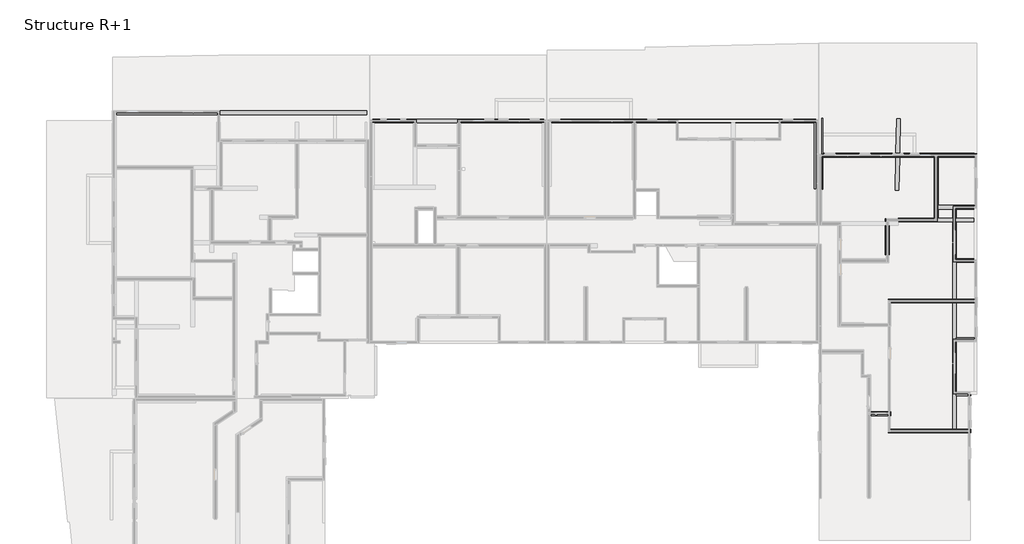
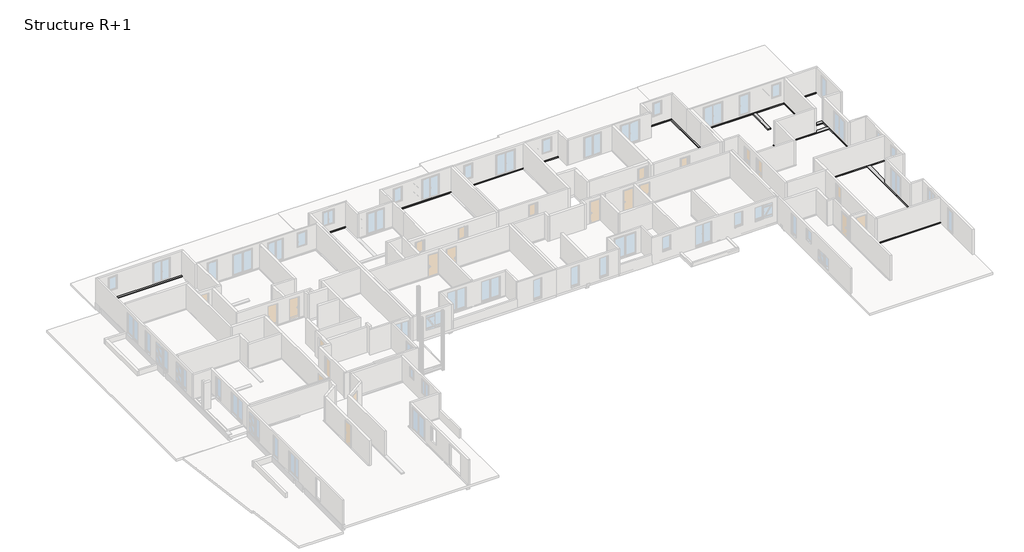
# One storey, part 11 of 11: 18 beams.
"""IFC4 building model written with IfcOpenShell, lengths in millimetres."""

import ifcopenshell
import ifcopenshell.guid

model = None  # the IFC model being written
_history = None  # IfcOwnerHistory: only IFC2X3 demands one
_inside = {}  # id of a spatial element -> (the spatial element, [elements in it])
_under = {}  # id of a project, library or spatial element -> (it, [spatial elements below it])
_declared = {}  # id of a project -> (the project, [libraries it declares])
_typed = {}  # id of a type object -> (the type object, [elements of that type])
_made_of = {}  # id of a material, layer set ... -> (it, [elements and type objects made of it])


def new_model(schema):
    """Start an empty IFC model of exactly this schema.

    Asked for "IFC4X3", IfcOpenShell would pick the latest addendum, in which some entities
    have other attributes; the version numbers below select the first issue.
    IFC2X3 requires an IfcOwnerHistory on every rooted entity: one is made here for all.
    """
    global model, _history
    if schema == "IFC4X3":
        model = ifcopenshell.file(schema_version=(4, 3, 0, 0))
    else:
        model = ifcopenshell.file(schema=schema)
    _inside.clear()
    _under.clear()
    _declared.clear()
    _typed.clear()
    _made_of.clear()
    _history = None
    if model.schema == "IFC2X3":
        org = make("IfcOrganization", Name="unknown")
        user = make(
            "IfcPersonAndOrganization",
            ThePerson=make("IfcPerson", FamilyName="unknown"),
            TheOrganization=org,
        )
        app = make(
            "IfcApplication",
            ApplicationDeveloper=org,
            Version="unknown",
            ApplicationFullName="unknown",
            ApplicationIdentifier="unknown",
        )
        _history = make(
            "IfcOwnerHistory",
            OwningUser=user,
            OwningApplication=app,
            ChangeAction="ADDED",
            CreationDate=0,
        )
    return model


def make(cls, **values):
    """One entity of the class cls with the attributes given. An attribute that is None is left unset."""
    return model.create_entity(
        cls, **{name: value for name, value in values.items() if value is not None}
    )


def rooted(cls, **values):
    """An entity with a GlobalId (a new one), such as an element, a storey or a relation."""
    return make(cls, GlobalId=ifcopenshell.guid.new(), OwnerHistory=_history, **values)


def si_unit(unit_type, name, prefix=None):
    """IfcSIUnit, for example si_unit("LENGTHUNIT", "METRE", prefix="MILLI")."""
    return make("IfcSIUnit", UnitType=unit_type, Prefix=prefix, Name=name)


def assignment(units):
    """IfcUnitAssignment: the units of a project."""
    return None if units is None else make("IfcUnitAssignment", Units=units)


def point(xyz):
    """IfcCartesianPoint."""
    return None if xyz is None else make("IfcCartesianPoint", Coordinates=xyz)


def direction(xyz):
    """IfcDirection."""
    return None if xyz is None else make("IfcDirection", DirectionRatios=xyz)


def frame(location, z_axis=None, x_axis=None):
    """IfcAxis2Placement3D, a coordinate frame: its origin and axes. An axis left out is left unset."""
    return make(
        "IfcAxis2Placement3D",
        Location=point(location),
        Axis=direction(z_axis),
        RefDirection=direction(x_axis),
    )


def origin():
    """The frame at (0, 0, 0) with its axes left unset."""
    return frame((0.0, 0.0, 0.0))


def place(relative_to, where):
    """IfcLocalPlacement: puts the frame where relative to a parent placement (None: the world)."""
    return make(
        "IfcLocalPlacement", PlacementRelTo=relative_to, RelativePlacement=where
    )


def context(
    kind, dimensions, precision=None, world=None, true_north=None, identifier=None
):
    """IfcGeometricRepresentationContext, for example the 3D "Model" context."""
    return make(
        "IfcGeometricRepresentationContext",
        ContextIdentifier=identifier,
        ContextType=kind,
        CoordinateSpaceDimension=dimensions,
        Precision=precision,
        WorldCoordinateSystem=world,
        TrueNorth=true_north,
    )


def project(units=None, contexts=None):
    """IfcProject with its units and contexts."""
    return rooted(
        "IfcProject",
        Name="project",
        RepresentationContexts=contexts,
        UnitsInContext=assignment(units),
    )


def spatial(cls, under=None, at=None, **own):
    """A site, building, storey or space (cls), placed at a placement, below another one or the project."""
    s = rooted(cls, ObjectPlacement=at, **own)
    if under is not None:
        _under.setdefault(under.id(), (under, []))[1].append(s)
    return s


def polyline(points):
    """IfcPolyline through the points."""
    return make("IfcPolyline", Points=[point(p) for p in points])


def outline(outer, holes=None, kind="AREA"):
    """IfcArbitraryClosedProfileDef: a profile drawn as a closed curve; with holes, ...WithVoids."""
    if holes is None:
        return make("IfcArbitraryClosedProfileDef", ProfileType=kind, OuterCurve=outer)
    return make(
        "IfcArbitraryProfileDefWithVoids",
        ProfileType=kind,
        OuterCurve=outer,
        InnerCurves=holes,
    )


def extrude(swept, where, along, depth):
    """IfcExtrudedAreaSolid: the profile swept, set in the frame where, extruded along a direction by depth."""
    return make(
        "IfcExtrudedAreaSolid",
        SweptArea=swept,
        Position=where,
        ExtrudedDirection=direction(along),
        Depth=depth,
    )


def faces_of(points, faces, orient=None, outer=None):
    """IfcFace entities. A face is a list of loops; a loop is a list of indices into points, from 0.

    orient and outer hold one flag for each loop. By default every Orientation is true, the
    first loop of a face is its IfcFaceOuterBound and the others are IfcFaceBound.
    """
    made = []
    for i, loops in enumerate(faces):
        bounds = []
        for j, loop in enumerate(loops):
            is_outer = j == 0 if outer is None else outer[i][j]
            bounds.append(
                make(
                    "IfcFaceOuterBound" if is_outer else "IfcFaceBound",
                    Bound=make("IfcPolyLoop", Polygon=[points[k] for k in loop]),
                    Orientation=True if orient is None else orient[i][j],
                )
            )
        made.append(make("IfcFace", Bounds=bounds))
    return made


def faceted_brep(points, faces, orient=None, outer=None, voids=None):
    """IfcFacetedBrep: a solid bounded by flat faces; with voids (closed shells), ...WithVoids."""
    shared = [point(p) for p in points]
    hull = make("IfcClosedShell", CfsFaces=faces_of(shared, faces, orient, outer))
    if voids is None:
        return make("IfcFacetedBrep", Outer=hull)
    return make(
        "IfcFacetedBrepWithVoids",
        Outer=hull,
        Voids=[
            make(cls, CfsFaces=faces_of(shared, fs, o, b)) for cls, fs, o, b in voids
        ],
    )


def shape(context_of_items, identifier, shape_type, items):
    """IfcShapeRepresentation: the items that make up one representation, for example the "Body"."""
    return make(
        "IfcShapeRepresentation",
        ContextOfItems=context_of_items,
        RepresentationIdentifier=identifier,
        RepresentationType=shape_type,
        Items=items,
    )


def made_of(thing, what):
    """Note that an element or type object is made of a material, layer set ...; save() writes the relation."""
    if what is not None:
        _made_of.setdefault(what.id(), (what, []))[1].append(thing)
    return thing


def element(
    cls,
    number,
    at=None,
    inside=None,
    cuts=None,
    type_object=None,
    material=None,
    context=None,
    identifier="Body",
    shape_type=None,
    held_by="IfcProductDefinitionShape",
    body=None,
    shapes=None,
    **own,
):
    """One element of the class cls, such as IfcWall. Its Tag is "e" and its number.

    at: its placement. inside: the storey or other place that contains it. cuts: it is an
    opening in that element (IfcRelVoidsElement). A single representation is given by context,
    identifier, shape_type and body (its items); several are given by shapes. held_by: the class
    of the entity that holds the representations. save() writes the other relations.
    """
    e = rooted(cls, Tag="e%d" % number, ObjectPlacement=at, **own)
    if body is not None:
        shapes = [shape(context, identifier, shape_type, body)]
    if shapes is not None:
        e.Representation = make(held_by, Representations=shapes)
    if inside is not None:
        _inside.setdefault(inside.id(), (inside, []))[1].append(e)
    if cuts is not None:
        rooted(
            "IfcRelVoidsElement", RelatingBuildingElement=cuts, RelatedOpeningElement=e
        )
    if type_object is not None:
        _typed.setdefault(type_object.id(), (type_object, []))[1].append(e)
    return made_of(e, material)


def aggregate(whole, parts):
    """IfcRelAggregates: a whole, such as a stair, and the parts it consists of."""
    return rooted("IfcRelAggregates", RelatingObject=whole, RelatedObjects=parts)


def save(model, path):
    """Write the relations noted so far, then the file.

    IfcRelAggregates (storeys below a building ...), IfcRelContainedInSpatialStructure (elements
    in a storey), IfcRelDefinesByType, IfcRelAssociatesMaterial and IfcRelDeclares: one each for
    every whole, place, type object, material and project.
    """
    for whole, parts in _under.values():
        aggregate(whole, parts)
    for where, things in _inside.values():
        rooted(
            "IfcRelContainedInSpatialStructure",
            RelatedElements=things,
            RelatingStructure=where,
        )
    for kind, things in _typed.values():
        rooted("IfcRelDefinesByType", RelatedObjects=things, RelatingType=kind)
    for what, things in _made_of.values():
        rooted("IfcRelAssociatesMaterial", RelatedObjects=things, RelatingMaterial=what)
    for by, libraries in _declared.values():
        rooted("IfcRelDeclares", RelatingContext=by, RelatedDefinitions=libraries)
    model.write(path)


model = new_model("IFC4")

# Units and contexts
model_context = context("Model", 3, world=origin())
ifc_project = project(units=[si_unit("LENGTHUNIT", "METRE", prefix="MILLI")], contexts=[model_context])

# Site, building, storey
site = spatial("IfcSite", under=ifc_project)
building = spatial("IfcBuilding", under=site)
storey = spatial("IfcBuildingStorey", under=building, Name="Structure R+1", Elevation=3320.0)

# Beams
placement = place(None, origin())
element("IfcBeam", 1, ObjectType="Poutre rectangulaire - Béton : 300 x 600 mm", at=placement, inside=storey, context=model_context, shape_type="Brep", body=[
    faceted_brep([(37598.3832806, 32157.4959984, 3320.0), (37598.3832806, 32157.4959984, 2720.0), (24101.9389593, 32157.4959984, 2720.0), (24101.9389593, 32157.4959984, 3320.0), (24101.9389593, 32107.4974719, 2720.0), (37598.3832806, 32107.4972516, 2720.0), (37808.398272, 32107.4972516, 2720.0), (37808.398272, 31857.4959984, 2720.0), (37798.3982717, 31857.4959984, 2720.0), (37498.3982717, 31857.4959984, 2720.0), (31052.3830099, 31857.4959984, 2720.0), (30752.3830099, 31857.4959984, 2720.0), (27575.1224614, 31857.4959984, 2720.0), (27275.1224614, 31857.4959984, 2720.0), (24189.3830554, 31857.4959984, 2720.0), (23939.4686156, 31857.4959984, 2720.0), (23939.4686156, 31860.3155595, 2720.0), (23939.4686156, 32107.4974719, 2720.0), (37807.390788, 31857.4959984, 3030.0), (37798.3982717, 31857.4959984, 3030.0), (37498.3982717, 31857.4959984, 3030.0), (31052.3830099, 31857.4959984, 3030.0), (30752.3830099, 31857.4959984, 3030.0), (27575.1224614, 31857.4959984, 3030.0), (27275.1224614, 31857.4959984, 3030.0), (24189.3830554, 31857.4959984, 3030.0), (23939.4686156, 31857.4959984, 3030.0), (37808.398272, 31857.4959984, 3230.0), (37807.390788, 31857.4959984, 3230.0), (37598.3832806, 32107.4972516, 3320.0), (24101.9389593, 32107.4974719, 3320.0), (27524.3814808, 32107.4974719, 3320.0), (27524.3814808, 31947.4974719, 3320.0), (24031.9389593, 31947.4974719, 3320.0), (24031.9389593, 31857.4959984, 3320.0), (24189.3830554, 31857.4959984, 3320.0), (27275.1224614, 31857.4959984, 3320.0), (27575.1224614, 31857.4959984, 3320.0), (30752.3830099, 31857.4959984, 3320.0), (31052.3830099, 31857.4959984, 3320.0), (37498.3982717, 31857.4959984, 3320.0), (37648.3832806, 31857.4959984, 3320.0), (37648.3832806, 31947.4972516, 3320.0), (30984.3814808, 31947.4972516, 3320.0), (30984.3814808, 32107.4972516, 3320.0), (37598.3832806, 32107.4960317, 3030.0), (37807.390788, 32107.4972516, 3030.0), (37807.390788, 32107.4972516, 3230.0), (37808.398272, 32107.4972516, 3230.0), (24101.9389593, 32107.4974719, 3030.0), (23939.4686156, 32107.4974719, 3030.0), (27524.3814808, 32107.4974719, 3230.0), (30984.3814808, 32107.4974719, 3230.0), (27524.3814808, 31947.4974719, 3230.0), (30984.3814808, 31947.4972516, 3230.0), (23939.4686156, 31860.3155595, 3030.0), (37648.3832806, 31947.4972516, 3230.0), (37648.3832806, 31857.4959984, 3230.0), (37498.3982717, 31857.4959984, 3230.0), (31052.3830099, 31857.4959984, 3230.0), (30752.3830099, 31857.4959984, 3230.0), (27575.1224614, 31857.4959984, 3230.0), (27275.1224614, 31857.4959984, 3230.0), (24189.3830554, 31857.4959984, 3230.0), (24031.9389593, 31857.4959984, 3230.0), (24031.9389593, 31947.4974719, 3230.0)], [[[0, 1, 2, 3]], [[4, 2, 1, 5, 6, 7, 8, 9, 10, 11, 12, 13, 14, 15, 16, 17]], [[18, 19, 20, 21, 22, 23, 24, 25, 26, 15, 14, 13, 12, 11, 10, 9, 8, 7, 27, 28]], [[29, 0, 3, 30, 31, 32, 33, 34, 35, 36, 37, 38, 39, 40, 41, 42, 43, 44]], [[1, 0, 29, 45, 5]], [[6, 5, 45, 46, 47, 48]], [[3, 2, 4, 49, 30]], [[4, 17, 50, 49]], [[51, 31, 30, 49, 45, 29, 44, 52]], [[31, 51, 53, 32]], [[28, 27, 48, 47]], [[52, 44, 43, 54]], [[26, 25, 24, 23, 22, 21, 20, 19, 18, 46, 45, 49, 50, 55]], [[53, 51, 52, 54, 56, 57, 58, 59, 60, 61, 62, 63, 64, 65]], [[32, 53, 65, 33]], [[54, 43, 42, 56]], [[17, 16, 15, 26, 55, 50]], [[42, 41, 57, 56]], [[34, 33, 65, 64]], [[7, 6, 48, 27]], [[46, 18, 28, 47]], [[57, 41, 40, 39, 38, 37, 36, 35, 34, 64, 63, 62, 61, 60, 59, 58]]]),
])
element("IfcBeam", 2, ObjectType="Poutre rectangulaire - Béton : 300 x 600 mm", at=placement, inside=storey, context=model_context, shape_type="SweptSolid", body=[
    extrude(outline(polyline([(3806.907833, 32500.6398567), (3806.907833, 32800.6398567), (23609.3795366, 32800.6398567), (23609.3795366, 32500.6398567), (3806.907833, 32500.6398567)])), frame((0.0, 0.0, 2720.0), z_axis=(0.0, 0.0, 1.0), x_axis=(1.0, 0.0, 0.0)), (0.0, 0.0, 1.0), 600.0),
])
element("IfcBeam", 3, ObjectType="Poutre rectangulaire - Béton : 300 x 600 mm", at=placement, inside=storey, context=model_context, shape_type="Brep", body=[
    faceted_brep([(38178.7313075, 31857.4959984, 3320.0), (38178.7313075, 31857.4959984, 3230.0), (44607.2462422, 31857.4959984, 3230.0), (44657.3927707, 31857.4959984, 3230.0), (44657.3927707, 31857.4959984, 3320.0), (44607.2462422, 31857.4959984, 3320.0), (38178.7313075, 31927.4960094, 3230.0), (38178.7313075, 31927.4960094, 3320.0), (44657.3927707, 31927.4960094, 3230.0), (44657.3927707, 31927.4960094, 3320.0)], [[[0, 1, 2, 3, 4, 5]], [[6, 1, 0, 7]], [[1, 6, 8, 3, 2]], [[7, 0, 5, 4, 9]], [[6, 7, 9, 8]], [[4, 3, 8, 9]]]),
    faceted_brep([(38078.7313075, 32087.4960094, 2720.0), (38078.7313075, 32157.4959984, 2720.0), (59082.2183923, 32157.4959984, 2720.0), (59082.2183923, 32111.2837659, 2720.0), (59282.9632272, 32111.2837659, 2720.0), (59282.9632272, 31857.4959984, 2720.0), (58982.9632272, 31857.4959984, 2720.0), (52717.3928747, 31857.4959984, 2720.0), (52417.3928747, 31857.4959984, 2720.0), (44907.2462422, 31857.4959984, 2720.0), (44607.2462422, 31857.4959984, 2720.0), (38178.7313075, 31857.4959984, 2720.0), (38178.7313075, 32087.4960094, 2720.0), (38078.7313075, 32157.4959984, 3320.0), (59082.2183923, 32157.4959984, 3320.0), (38078.7313075, 32087.4960094, 3320.0), (59282.9632272, 32087.496363, 3320.0), (59282.9632272, 32111.2837659, 3320.0), (59082.2183923, 32111.2837659, 3320.0), (38178.7313075, 32087.4960094, 3030.0), (59282.9632272, 32087.4960094, 3030.0), (38178.7313075, 31857.4959984, 3030.0), (44607.2462422, 31857.4959984, 3030.0), (44907.2462422, 31857.4959984, 3030.0), (52417.3928747, 31857.4959984, 3030.0), (52717.3928747, 31857.4959984, 3030.0), (58982.9632272, 31857.4959984, 3030.0), (59282.9632272, 31857.4959984, 3030.0)], [[[0, 1, 2, 3, 4, 5, 6, 7, 8, 9, 10, 11, 12]], [[1, 13, 14, 2]], [[13, 15, 16, 17, 18, 14]], [[1, 0, 15, 13]], [[0, 12, 19, 20, 16, 15]], [[21, 22, 23, 24, 25, 26, 27, 20, 19]], [[2, 14, 18, 3]], [[18, 17, 4, 3]], [[27, 26, 25, 24, 23, 22, 21, 11, 10, 9, 8, 7, 6, 5]], [[12, 11, 21, 19]], [[27, 5, 4, 17, 16, 20]]]),
    faceted_brep([(56314.3903552, 31857.4959984, 3230.0), (56314.3903552, 31857.4959984, 3320.0), (56314.3903552, 31927.496363, 3320.0), (56314.3903552, 31927.496363, 3230.0), (59132.9661689, 31927.496363, 3230.0), (59132.9661689, 31857.4959984, 3230.0), (58982.9632272, 31857.4959984, 3230.0), (59132.9661689, 31857.4959984, 3320.0), (58982.9632272, 31857.4959984, 3320.0), (59132.9661689, 31927.496363, 3320.0)], [[[0, 1, 2, 3]], [[0, 3, 4, 5, 6]], [[1, 0, 6, 5, 7, 8]], [[3, 2, 9, 4]], [[2, 1, 8, 7, 9]], [[5, 4, 9, 7]]]),
    faceted_brep([(56154.3903552, 31887.4960094, 3320.0), (56154.3903552, 31857.4959984, 3320.0), (56154.3903552, 31857.4959984, 3230.0), (56154.3903552, 31887.4960094, 3230.0), (48220.3941376, 31887.4960094, 3320.0), (48220.3941376, 31887.4960094, 3230.0), (48220.3941376, 31857.4959984, 3230.0), (48220.3941376, 31857.4959984, 3320.0), (52717.3928747, 31857.4959984, 3230.0), (52417.3928747, 31857.4959984, 3230.0), (52417.3928747, 31857.4959984, 3320.0), (52717.3928747, 31857.4959984, 3320.0)], [[[0, 1, 2, 3]], [[4, 0, 3, 5]], [[5, 6, 7, 4]], [[3, 2, 8, 9, 6, 5]], [[1, 0, 4, 7, 10, 11]], [[2, 1, 11, 10, 7, 6, 9, 8]]]),
    faceted_brep([(48060.3941376, 31857.4959984, 3230.0), (48060.3941376, 31927.4960094, 3230.0), (48060.3941376, 31927.4960094, 3320.0), (48060.3941376, 31857.4959984, 3320.0), (44857.3927707, 31857.4959984, 3230.0), (44857.3927707, 31857.4959984, 3320.0), (44857.3927707, 31927.4960094, 3320.0), (44857.3927707, 31927.4960094, 3230.0), (44907.2462422, 31857.4959984, 3230.0), (44907.2462422, 31857.4959984, 3320.0)], [[[0, 1, 2, 3]], [[4, 5, 6, 7]], [[1, 0, 8, 4, 7]], [[3, 2, 6, 5, 9]], [[2, 1, 7, 6]], [[0, 3, 9, 5, 4, 8]]]),
])
element("IfcBeam", 4, ObjectType="Poutre rectangulaire - Béton : 300 x 600 mm", at=placement, inside=storey, context=model_context, shape_type="Brep", body=[
    faceted_brep([(58982.9632272, 26646.6200522, 3320.0), (58982.9632272, 26646.6200522, 3230.0), (59132.9632272, 26646.6200522, 3230.0), (59132.9632272, 26646.6200522, 3320.0), (58982.9632272, 31857.4959984, 3320.0), (58982.9632272, 31857.4959984, 3230.0), (59132.9661689, 31857.4959984, 3320.0), (59132.9661689, 31857.4959984, 3230.0), (59132.9647745, 29387.496363, 3230.0), (59132.9634564, 27052.4942338, 3230.0)], [[[0, 1, 2, 3]], [[1, 0, 4, 5]], [[3, 6, 4, 0]], [[5, 4, 6, 7]], [[1, 5, 7, 8, 9, 2]], [[3, 2, 9, 8, 7, 6]]]),
    faceted_brep([(59282.9632272, 26646.6200522, 2720.0), (58982.9632272, 26646.6200522, 2720.0), (58982.9632272, 31857.4959984, 2720.0), (59282.9632272, 31857.4959984, 2720.0), (59282.9632272, 26646.6200522, 3030.0), (59282.9632272, 31857.4959984, 3030.0), (58982.9632272, 26646.6200522, 3030.0), (58982.9632272, 31857.4959984, 3030.0)], [[[0, 1, 2, 3]], [[4, 0, 3, 5]], [[6, 4, 5, 7]], [[1, 6, 7, 2]], [[1, 0, 4, 6]], [[3, 2, 7, 5]]]),
])
element("IfcBeam", 5, ObjectType="Poutre rectangulaire - Béton : 300 x 600 mm", at=placement, inside=storey, context=model_context, shape_type="Brep", body=[
    faceted_brep([(59663.0074525, 26629.847462, 3230.0), (59663.0074525, 26629.847462, 3320.0), (59553.0074525, 26629.847462, 3320.0), (59553.0074525, 26629.847462, 3230.0), (59663.0074525, 29147.9024223, 3230.0), (59663.0074525, 29221.5866004, 3230.0), (59663.0074525, 29221.5866004, 3320.0), (59663.0074525, 29147.9024223, 3320.0), (59553.0074525, 29221.5866004, 3320.0), (59553.0074525, 29221.5866004, 3230.0)], [[[0, 1, 2, 3]], [[1, 0, 4, 5, 6, 7]], [[8, 2, 1, 7, 6]], [[3, 9, 5, 4, 0]], [[6, 5, 9, 8]], [[3, 2, 8, 9]]]),
    faceted_brep([(59663.0074525, 32215.247462, 3320.0), (59663.0074525, 32215.247462, 2720.0), (59562.998512, 32215.247462, 2720.0), (59562.998512, 32215.247462, 3320.0), (59663.0074525, 26629.847462, 2720.0), (59363.0074525, 26629.847462, 2720.0), (59363.0074525, 29381.5866004, 2720.0), (59562.998512, 29381.5866004, 2720.0), (59663.0074525, 29447.9024223, 2720.0), (59663.0074525, 29147.9024223, 2720.0), (59363.0074525, 26629.847462, 3030.0), (59663.0074525, 26629.847462, 3030.0), (59663.0074525, 29147.9024223, 3030.0), (59663.0074525, 29381.5866004, 3030.0), (59562.998512, 29381.5866004, 3030.0), (59363.0074525, 29381.5866004, 3030.0), (59663.0074525, 29381.5866004, 3320.0), (59562.998512, 29381.5866004, 3320.0), (59663.0074525, 29447.9024223, 3320.0)], [[[0, 1, 2, 3]], [[4, 5, 6, 7, 2, 1, 8, 9]], [[10, 11, 12, 13, 14, 15]], [[13, 16, 17, 14]], [[5, 4, 11, 10]], [[5, 10, 15, 6]], [[16, 18, 0, 3, 17]], [[7, 14, 17, 3, 2]], [[14, 7, 6, 15]], [[1, 0, 18, 16, 13, 12, 11, 4, 9, 8]]]),
])
element("IfcBeam", 6, ObjectType="Poutre rectangulaire - Béton : 300 x 600 mm", at=placement, inside=storey, context=model_context, shape_type="Brep", body=[
    faceted_brep([(59663.0074525, 29147.9024223, 3320.0), (59663.0074525, 29147.9024223, 3230.0), (65418.933362, 29147.9024223, 3230.0), (65719.0020165, 29147.9024223, 3230.0), (68457.2963514, 29147.9024223, 3230.0), (68507.2963514, 29147.9024223, 3230.0), (68507.2963514, 29147.9024223, 3320.0), (68457.2963514, 29147.9024223, 3320.0), (65719.0020165, 29147.9024223, 3320.0), (65418.933362, 29147.9024223, 3320.0), (59663.0074525, 29221.5866004, 3230.0), (59663.0074525, 29221.5866004, 3320.0), (68507.2963514, 29221.5866004, 3320.0), (68507.2963514, 29221.5866004, 3230.0)], [[[0, 1, 2, 3, 4, 5, 6, 7, 8, 9]], [[10, 11, 12, 13]], [[1, 0, 11, 10]], [[6, 5, 13, 12]], [[1, 10, 13, 5, 4, 3, 2]], [[11, 0, 9, 8, 7, 6, 12]]]),
    faceted_brep([(71818.498036, 29147.9024223, 2720.0), (71818.498036, 29301.5866004, 2720.0), (71820.8909444, 29301.5866004, 2720.0), (71820.8909444, 29147.9024223, 2720.0), (71608.498036, 29447.9024223, 3320.0), (71608.498036, 29447.9024223, 2720.0), (65725.4205389, 29447.9024223, 2720.0), (65425.3518844, 29447.9024223, 2720.0), (59663.0074525, 29447.9024223, 2720.0), (59663.0074525, 29447.9024223, 3320.0), (65425.3518844, 29447.9024223, 3320.0), (65725.4205389, 29447.9024223, 3320.0), (71608.498036, 29401.5866004, 3320.0), (59663.0074525, 29381.5866004, 3320.0), (71798.498036, 29381.5866004, 3320.0), (71798.498036, 29147.9024223, 3320.0), (71820.8909444, 29147.9024223, 3320.0), (71820.8909444, 29301.5866004, 3320.0), (71818.498036, 29301.5866004, 3320.0), (71818.498036, 29401.5866004, 3320.0), (71608.498036, 29401.5866004, 2720.0), (71818.498036, 29401.5866004, 2720.0), (71794.898036, 29381.5866004, 3030.0), (71794.898036, 29381.5866004, 3230.0), (71798.498036, 29381.5866004, 3230.0), (59663.0074525, 29381.5866004, 3030.0), (71794.898036, 29301.5866004, 3230.0), (71798.498036, 29301.5866004, 3230.0), (71794.898036, 29301.5866004, 3030.0), (59663.0074525, 29147.9024223, 3030.0), (65418.933362, 29147.9024223, 3030.0), (65719.0020165, 29147.9024223, 3030.0), (68457.2963514, 29147.9024223, 3030.0), (68757.2963514, 29147.9024223, 3030.0), (71618.498036, 29147.9024223, 3030.0), (71618.498036, 29301.5866004, 3030.0), (71798.498036, 29301.5866004, 3030.0), (71618.498036, 29301.5866004, 2720.0), (71818.498036, 29301.5866004, 3030.0), (59663.0074525, 29147.9024223, 2720.0), (71618.498036, 29147.9024223, 2720.0), (71818.498036, 29147.9024223, 3030.0), (71798.498036, 29147.9024223, 3030.0), (71818.498036, 29301.5866004, 3030.0), (68757.2963514, 29147.9024223, 2720.0), (68457.2963514, 29147.9024223, 2720.0), (65719.0020165, 29147.9024223, 2720.0), (65418.933362, 29147.9024223, 2720.0)], [[[0, 1, 2, 3]], [[4, 5, 6, 7, 8, 9, 10, 11]], [[12, 4, 11, 10, 9, 13, 14, 15, 16, 17, 18, 19]], [[12, 20, 5, 4]], [[20, 12, 19, 21]], [[22, 23, 24, 14, 13, 25]], [[26, 27, 24, 23]], [[28, 22, 25, 29, 30, 31, 32, 33, 34, 35]], [[36, 27, 26, 28, 35, 37, 1, 38]], [[23, 22, 28, 26]], [[8, 39, 29, 25, 13, 9]], [[37, 35, 34, 40]], [[41, 38, 1, 0]], [[38, 41, 42, 36]], [[27, 36, 42, 15, 14, 24]], [[15, 42, 41, 0, 3, 16]], [[16, 3, 2, 17]], [[2, 1, 43, 18, 17]], [[1, 21, 19, 18, 43]], [[5, 20, 21, 1, 37, 40, 44, 45, 46, 47, 39, 8, 7, 6]], [[29, 39, 47, 46, 45, 44, 40, 34, 33, 32, 31, 30]]]),
    faceted_brep([(71638.498036, 29147.9024223, 3230.0), (71638.498036, 29221.5866004, 3230.0), (71638.498036, 29221.5866004, 3320.0), (71638.498036, 29147.9024223, 3320.0), (68757.2963514, 29147.9024223, 3230.0), (68707.2963514, 29147.9024223, 3230.0), (68707.2963514, 29221.5866004, 3230.0), (68707.2963514, 29221.5866004, 3320.0), (68707.2963514, 29147.9024223, 3320.0), (68757.2963514, 29147.9024223, 3320.0)], [[[0, 1, 2, 3]], [[1, 0, 4, 5, 6]], [[3, 2, 7, 8, 9]], [[5, 8, 7, 6]], [[0, 3, 9, 8, 5, 4]], [[2, 1, 6, 7]]]),
])
element("IfcBeam", 7, ObjectType="Poutre rectangulaire - Béton : 300 x 600 mm", at=placement, inside=storey, context=model_context, shape_type="Brep", body=[
    faceted_brep([(65484.2414348, 32200.3840719, 3320.0), (65784.172796, 32193.967018, 3320.0), (65784.172796, 32193.967018, 2720.0), (65484.2414348, 32200.3840719, 2720.0), (65425.3518844, 29447.9024223, 3320.0), (65425.3518844, 29447.9024223, 2720.0), (65725.4205389, 29447.9024223, 2720.0), (65725.4205389, 29447.9024223, 3320.0)], [[[0, 1, 2, 3]], [[4, 5, 6, 7]], [[0, 3, 5, 4]], [[3, 2, 6, 5]], [[2, 1, 7, 6]], [[1, 0, 4, 7]]]),
    faceted_brep([(65362.7653538, 26522.6249188, 3230.0), (65362.7653538, 26522.6249188, 3320.0), (65418.933362, 29147.9024223, 3320.0), (65418.933362, 29147.9024223, 3230.0), (65662.8340084, 26522.6249188, 3320.0), (65719.0020165, 29147.9024223, 3320.0), (65662.8340084, 26522.6249188, 3230.0), (65719.0020165, 29147.9024223, 3230.0)], [[[0, 1, 2, 3]], [[1, 4, 5, 2]], [[4, 1, 0, 6]], [[6, 0, 3, 7]], [[3, 2, 5, 7]], [[4, 6, 7, 5]]]),
    faceted_brep([(65364.9048613, 26622.6249188, 2720.0), (65418.933362, 29147.9024223, 2720.0), (65719.0020165, 29147.9024223, 2720.0), (65662.8340084, 26522.6249188, 2720.0), (65613.8694348, 26522.6249188, 2720.0), (65613.8694348, 26622.6249188, 2720.0), (65662.8340084, 26522.6249188, 3030.0), (65719.0020165, 29147.9024223, 3030.0), (65364.9048613, 26622.6249188, 3030.0), (65613.8694348, 26622.6249188, 3030.0), (65413.8694348, 26622.6249188, 3030.0), (65418.933362, 29147.9024223, 3030.0), (65613.8694348, 26522.6249188, 3030.0)], [[[0, 1, 2, 3, 4, 5]], [[6, 3, 2, 7]], [[8, 0, 5, 9, 10]], [[11, 8, 10, 9, 12, 6, 7]], [[3, 6, 12, 4]], [[0, 8, 11, 1]], [[1, 11, 7, 2]], [[9, 5, 4, 12]]]),
])
element("IfcBeam", 8, ObjectType="Poutre rectangulaire - Béton : 300 x 600 mm", at=placement, inside=storey, context=model_context, shape_type="Brep", body=[
    faceted_brep([(65621.5184286, 24334.1958834, 2720.0), (65621.5184286, 24034.1958834, 2720.0), (65621.5184286, 24034.1958834, 3030.0), (65621.5184286, 24334.1958834, 3030.0), (68457.2963514, 24334.1958834, 2720.0), (68757.2963514, 24334.1958834, 2720.0), (69900.3173481, 24334.1958834, 2720.0), (70200.3173481, 24334.1958834, 2720.0), (71618.498036, 24334.1958834, 2720.0), (71618.498036, 24034.1958834, 2720.0), (70200.3173481, 24034.1958834, 2720.0), (69900.3173481, 24034.1958834, 2720.0), (68457.2963514, 24334.1958834, 3030.0), (68757.2963514, 24334.1958834, 3030.0), (69900.3173481, 24334.1958834, 3030.0), (70200.3173481, 24334.1958834, 3030.0), (71618.498036, 24334.1958834, 3030.0), (71618.498036, 24034.1958834, 3030.0), (69900.3173481, 24034.1958834, 3030.0), (70200.3173481, 24034.1958834, 3030.0)], [[[0, 1, 2, 3]], [[1, 0, 4, 5, 6, 7, 8, 9, 10, 11]], [[8, 7, 6, 5, 4, 0, 3, 12, 13, 14, 15, 16]], [[17, 16, 15, 14, 13, 12, 3, 2, 18, 19]], [[17, 9, 8, 16]], [[1, 11, 10, 9, 17, 19, 18, 2]]]),
    faceted_brep([(65621.5184286, 24034.1958834, 3320.0), (65621.5184286, 24034.1958834, 3230.0), (69900.3173481, 24034.1958834, 3230.0), (69965.3197793, 24034.1958834, 3230.0), (69965.3197793, 24034.1958834, 3320.0), (69900.3173481, 24034.1958834, 3320.0), (65621.5184286, 24084.1958834, 3320.0), (65621.5184286, 24084.1958834, 3230.0), (69965.3197793, 24334.1958834, 3230.0), (69965.3197793, 24334.1958834, 3320.0), (68507.2963514, 24084.1958834, 3230.0), (68707.2963514, 24084.1958834, 3230.0), (68707.2963514, 24334.1958834, 3230.0), (68757.2963514, 24334.1958834, 3230.0), (69900.3173481, 24334.1958834, 3230.0), (68707.2963514, 24334.1958834, 3320.0), (68757.2963514, 24334.1958834, 3320.0), (69900.3173481, 24334.1958834, 3320.0), (68707.2963514, 24084.1958834, 3320.0)], [[[0, 1, 2, 3, 4, 5]], [[1, 0, 6, 7]], [[4, 3, 8, 9]], [[3, 2, 1, 7, 10, 11, 12, 13, 14, 8]], [[9, 8, 14, 13, 12, 15, 16, 17]], [[11, 18, 15, 12]], [[18, 11, 10, 7, 6]], [[0, 5, 4, 9, 17, 16, 15, 18, 6]]]),
    faceted_brep([(71598.4984496, 24034.1958834, 3320.0), (71598.4984496, 24334.1958834, 3320.0), (70200.3173481, 24334.1958834, 3320.0), (70125.3197793, 24334.1958834, 3320.0), (70125.3197793, 24034.1958834, 3320.0), (70200.3173481, 24034.1958834, 3320.0), (71598.4984496, 24034.1958834, 3230.0), (71598.4984496, 24334.1958834, 3230.0), (70200.3173481, 24034.1958834, 3230.0), (70125.3197793, 24034.1958834, 3230.0), (70125.3197793, 24334.1958834, 3230.0), (70200.3173481, 24334.1958834, 3230.0)], [[[0, 1, 2, 3, 4, 5]], [[1, 0, 6, 7]], [[7, 6, 8, 9, 10, 11]], [[10, 3, 2, 1, 7, 11]], [[9, 4, 3, 10]], [[0, 5, 4, 9, 8, 6]]]),
    faceted_brep([(68507.2963514, 24334.1958834, 3320.0), (68457.2963514, 24334.1958834, 3320.0), (65621.5184286, 24334.1958834, 3320.0), (65621.5184286, 24284.1958834, 3320.0), (68507.2963514, 24284.1958834, 3320.0), (68507.2963514, 24334.1958834, 3230.0), (68507.2963514, 24284.1958834, 3230.0), (65621.5184286, 24284.1958834, 3230.0), (65621.5184286, 24334.1958834, 3230.0), (68457.2963514, 24334.1958834, 3230.0)], [[[0, 1, 2, 3, 4]], [[5, 0, 4, 6]], [[3, 7, 6, 4]], [[8, 2, 1, 0, 5, 9]], [[2, 8, 7, 3]], [[8, 9, 5, 6, 7]]]),
])
element("IfcBeam", 9, ObjectType="Poutre rectangulaire - Béton : 300 x 600 mm", at=placement, inside=storey, context=model_context, shape_type="Brep", body=[
    faceted_brep([(68457.2963514, 29147.9024223, 2720.0), (68757.2963514, 29147.9024223, 2720.0), (68757.2963514, 25329.1040958, 2720.0), (68757.2963514, 25029.1040958, 2720.0), (68757.2963514, 24334.1958834, 2720.0), (68457.2963514, 24334.1958834, 2720.0), (68757.2963514, 29147.9024223, 3030.0), (68457.2963514, 29147.9024223, 3030.0), (68457.2963514, 24334.1958834, 3030.0), (68757.2963514, 24334.1958834, 3030.0), (68757.2963514, 25029.1040958, 3030.0), (68757.2963514, 25329.1040958, 3030.0)], [[[0, 1, 2, 3, 4, 5]], [[6, 7, 8, 9, 10, 11]], [[7, 0, 5, 8]], [[1, 6, 11, 10, 9, 4, 3, 2]], [[5, 4, 9, 8]], [[1, 0, 7, 6]]]),
    faceted_brep([(68757.2963514, 29147.9024223, 3230.0), (68757.2963514, 29147.9024223, 3320.0), (68757.2963514, 25329.1040958, 3320.0), (68757.2963514, 25029.1040958, 3320.0), (68757.2963514, 24334.1958834, 3320.0), (68757.2963514, 24334.1958834, 3230.0), (68757.2963514, 25029.1040958, 3230.0), (68757.2963514, 25329.1040958, 3230.0), (68707.2963514, 29147.9024223, 3320.0), (68707.2963514, 24334.1958834, 3320.0), (68707.2963514, 29147.9024223, 3230.0), (68707.2963514, 24334.1958834, 3230.0)], [[[0, 1, 2, 3, 4, 5, 6, 7]], [[1, 8, 9, 4, 3, 2]], [[10, 0, 7, 6, 5, 11]], [[8, 10, 11, 9]], [[5, 4, 9, 11]], [[1, 0, 10, 8]]]),
    faceted_brep([(68457.2963514, 29147.9024223, 3230.0), (68457.2963514, 29147.9024223, 3320.0), (68507.2963514, 29147.9024223, 3320.0), (68507.2963514, 29147.9024223, 3230.0), (68507.2963514, 24334.1958834, 3320.0), (68507.2963514, 24334.1958834, 3230.0), (68457.2963514, 24334.1958834, 3230.0), (68457.2963514, 24334.1958834, 3320.0)], [[[0, 1, 2, 3]], [[3, 2, 4, 5]], [[1, 0, 6, 7]], [[2, 1, 7, 4]], [[0, 3, 5, 6]], [[5, 4, 7, 6]]]),
])
element("IfcBeam", 10, ObjectType="Poutre rectangulaire - Béton : 300 x 600 mm", at=placement, inside=storey, context=model_context, shape_type="SweptSolid", body=[
    extrude(outline(polyline([(64898.1802895, 21444.2305554), (64598.1802895, 21444.2305554), (64598.1802895, 23762.4942338), (64898.1802895, 23762.4942338), (64898.1802895, 21444.2305554)])), frame((0.0, 0.0, 2720.0), z_axis=(0.0, 0.0, 1.0), x_axis=(1.0, 0.0, 0.0)), (0.0, 0.0, 1.0), 310.0),
    extrude(outline(polyline([(64898.1802895, 23762.4942338), (64898.1802895, 21444.2305554), (64848.1802895, 21444.2305554), (64848.1802895, 23762.4942338), (64898.1802895, 23762.4942338)])), frame((0.0, 0.0, 3230.0), z_axis=(0.0, 0.0, 1.0), x_axis=(1.0, 0.0, 0.0)), (0.0, 0.0, 1.0), 90.0),
    extrude(outline(polyline([(64598.1802895, 24284.1958834), (64898.1802895, 24284.1958834), (64898.1802895, 24062.4942338), (64598.1802895, 24062.4942338), (64598.1802895, 24284.1958834)])), frame((0.0, 0.0, 2720.0), z_axis=(0.0, 0.0, 1.0), x_axis=(1.0, 0.0, 0.0)), (0.0, 0.0, 1.0), 310.0),
    extrude(outline(polyline([(64598.1802895, 24284.1958834), (64647.2963514, 24284.1958834), (64647.2963514, 24084.1958834), (64648.1802895, 24084.1958834), (64648.1802895, 24062.4942338), (64598.1802895, 24062.4942338), (64598.1802895, 24284.1958834)])), frame((0.0, 0.0, 3230.0), z_axis=(0.0, 0.0, 1.0), x_axis=(1.0, 0.0, 0.0)), (0.0, 0.0, 1.0), 90.0),
    extrude(outline(polyline([(64898.1802895, 24084.1958834), (64898.1802895, 24062.4942338), (64848.1802895, 24062.4942338), (64848.1802895, 24084.1958834), (64898.1802895, 24084.1958834)])), frame((0.0, 0.0, 3230.0), z_axis=(0.0, 0.0, 1.0), x_axis=(1.0, 0.0, 0.0)), (0.0, 0.0, 1.0), 90.0),
    extrude(outline(polyline([(64598.1802895, 21444.2305554), (64598.1802895, 23762.4942338), (64648.1802895, 23762.4942338), (64648.1802895, 21444.2305554), (64598.1802895, 21444.2305554)])), frame((0.0, 0.0, 3230.0), z_axis=(0.0, 0.0, 1.0), x_axis=(1.0, 0.0, 0.0)), (0.0, 0.0, 1.0), 90.0),
])
element("IfcBeam", 11, ObjectType="Poutre rectangulaire - Béton : 300 x 600 mm", at=placement, inside=storey, context=model_context, shape_type="Brep", body=[
    faceted_brep([(71638.4984496, 17631.6268796, 3320.0), (70200.3173481, 17631.6268796, 3320.0), (69900.3173481, 17631.6268796, 3320.0), (65012.3590475, 17631.6268796, 3320.0), (65012.3590475, 17631.6268796, 3230.0), (69900.3173481, 17631.6268796, 3230.0), (70200.3173481, 17631.6268796, 3230.0), (71638.4984496, 17631.6268796, 3230.0), (71638.4984496, 17681.6268796, 3320.0), (65012.3590475, 17681.6268796, 3320.0), (65012.3590475, 17681.6268796, 3230.0), (71638.4984496, 17681.6268796, 3230.0)], [[[0, 1, 2, 3, 4, 5, 6, 7]], [[3, 2, 1, 0, 8, 9]], [[4, 3, 9, 10]], [[7, 6, 5, 4, 10, 11]], [[9, 8, 11, 10]], [[0, 7, 11, 8]]]),
    faceted_brep([(65012.3933514, 17631.6268796, 2720.0), (65012.3933514, 17931.6268796, 2720.0), (69900.3173481, 17931.6268796, 2720.0), (70200.3173481, 17931.6268796, 2720.0), (71618.498036, 17931.6268796, 2720.0), (71618.498036, 17631.6268796, 2720.0), (70200.3173481, 17631.6268796, 2720.0), (69900.3173481, 17631.6268796, 2720.0), (65012.3933514, 17931.6268796, 3030.0), (69900.3173481, 17931.6268796, 3030.0), (70200.3173481, 17931.6268796, 3030.0), (71618.498036, 17931.6268796, 3030.0), (65012.3933514, 17631.6268796, 3030.0), (71618.498036, 17631.6268796, 3030.0), (69900.3173481, 17631.6268796, 3030.0), (70200.3173481, 17631.6268796, 3030.0)], [[[0, 1, 2, 3, 4, 5, 6, 7]], [[1, 8, 9, 10, 11, 4, 3, 2]], [[0, 12, 8, 1]], [[13, 5, 4, 11]], [[12, 14, 15, 13, 11, 10, 9, 8]], [[12, 0, 7, 6, 5, 13, 15, 14]]]),
    faceted_brep([(64812.3933514, 17931.6268796, 3320.0), (64812.3933514, 17931.6268796, 3230.0), (64812.3933514, 17881.6268796, 3230.0), (64812.3933514, 17881.6268796, 3320.0), (71638.4984496, 17931.6268796, 3230.0), (71638.4984496, 17931.6268796, 3320.0), (71638.4984496, 17881.6268796, 3320.0), (71638.4984496, 17881.6268796, 3230.0), (69900.3173481, 17931.6268796, 3320.0), (70200.3173481, 17931.6268796, 3320.0), (70200.3173481, 17931.6268796, 3230.0), (69900.3173481, 17931.6268796, 3230.0)], [[[0, 1, 2, 3]], [[4, 5, 6, 7]], [[0, 8, 9, 5, 4, 10, 11, 1]], [[6, 3, 2, 7]], [[5, 9, 8, 0, 3, 6]], [[1, 11, 10, 4, 7, 2]]]),
])
element("IfcBeam", 12, ObjectType="Poutre rectangulaire - Béton : 300 x 600 mm", at=placement, inside=storey, context=model_context, shape_type="Brep", body=[
    faceted_brep([(69900.3173481, 24334.1958834, 3230.0), (69900.3173481, 24334.1958834, 3320.0), (69900.3173481, 25029.1040958, 3320.0), (69900.3173481, 25029.1040958, 3230.0), (69965.3197793, 24334.1958834, 3230.0), (69965.3197793, 24334.1958834, 3320.0), (69965.3197793, 25029.1040958, 3320.0), (69965.3197793, 25029.1040958, 3230.0)], [[[0, 1, 2, 3]], [[1, 0, 4, 5]], [[3, 2, 6, 7]], [[5, 4, 7, 6]], [[1, 5, 6, 2]], [[4, 0, 3, 7]]]),
    faceted_brep([(70200.3173481, 24334.1958834, 2720.0), (69900.3173481, 24334.1958834, 2720.0), (69900.3173481, 25029.1040958, 2720.0), (70200.3173481, 25029.1040958, 2720.0), (70200.3173481, 24334.1958834, 3030.0), (70200.3173481, 25029.1040958, 3030.0), (69900.3173481, 24334.1958834, 3030.0), (69900.3173481, 25029.1040958, 3030.0)], [[[0, 1, 2, 3]], [[4, 0, 3, 5]], [[6, 4, 5, 7]], [[1, 6, 7, 2]], [[1, 0, 4, 6]], [[7, 5, 3, 2]]]),
    faceted_brep([(70125.3197793, 24334.1958834, 3320.0), (70200.3173481, 24334.1958834, 3320.0), (70200.3173481, 25029.1040958, 3320.0), (70125.3197793, 25029.1040958, 3320.0), (70200.3173481, 24334.1958834, 3230.0), (70200.3173481, 25029.1040958, 3230.0), (70125.3197793, 24334.1958834, 3230.0), (70125.3197793, 25029.1040958, 3230.0)], [[[0, 1, 2, 3]], [[1, 4, 5, 2]], [[6, 0, 3, 7]], [[4, 6, 7, 5]], [[6, 4, 1, 0]], [[7, 3, 2, 5]]]),
    faceted_brep([(70200.3173481, 24034.1958834, 3230.0), (70125.3197793, 24034.1958834, 3230.0), (70125.3197793, 24034.1958834, 3320.0), (70200.3173481, 24034.1958834, 3320.0), (70125.3197793, 21034.8947764, 3230.0), (70125.3197793, 21034.8947764, 3320.0), (70200.3173481, 21034.8947764, 3230.0), (70200.3173481, 21034.8947764, 3320.0), (70200.3173481, 21132.9113815, 3230.0), (70200.3173481, 21132.9113815, 3320.0)], [[[0, 1, 2, 3]], [[2, 1, 4, 5]], [[5, 4, 6, 7]], [[1, 0, 8, 6, 4]], [[3, 2, 5, 7, 9]], [[0, 3, 9, 7, 6, 8]]]),
    faceted_brep([(70200.3173481, 14741.6515349, 3230.0), (69965.320202, 14741.6515349, 3230.0), (69965.320202, 14581.6515349, 3230.0), (69965.320202, 10444.6162149, 3230.0), (70125.320202, 10444.6162149, 3230.0), (70200.3173481, 10444.6162149, 3230.0), (70200.3173481, 10314.6162149, 3230.0), (70200.3173481, 7665.5919516, 3230.0), (69900.3173481, 7665.5919516, 3230.0), (69900.3173481, 17631.6268796, 3230.0), (70200.3173481, 17631.6268796, 3230.0), (70200.3173481, 14871.6515349, 3230.0), (69900.3173481, 17631.6268796, 3320.0), (69900.3173481, 7665.5919516, 3320.0), (70200.3173481, 14741.6515349, 3320.0), (70200.3173481, 17631.6268796, 3320.0), (70200.3173481, 14871.6515349, 3320.0), (69965.320202, 14741.6515349, 3320.0), (70200.3173481, 7665.5919516, 3320.0), (70200.3173481, 10444.6162149, 3320.0), (70200.3173481, 10314.6162149, 3320.0), (69965.320202, 10444.6162149, 3320.0)], [[[0, 1, 2, 3, 4, 5, 6, 7, 8, 9, 10, 11]], [[12, 9, 8, 13]], [[14, 0, 11, 10, 15, 16]], [[10, 9, 12, 15]], [[1, 0, 14, 17]], [[8, 7, 18, 13]], [[5, 19, 20, 18, 7, 6]], [[5, 4, 3, 21, 19]], [[1, 17, 21, 3, 2]], [[17, 14, 16, 15, 12, 13, 18, 20, 19, 21]]]),
    faceted_brep([(70200.3173481, 24034.1958834, 2720.0), (69900.3173481, 24034.1958834, 2720.0), (69900.3173481, 24034.1958834, 3030.0), (70200.3173481, 24034.1958834, 3030.0), (69900.3173481, 17931.6268796, 3030.0), (70200.3173481, 17931.6268796, 3030.0), (70200.3173481, 20832.9113815, 3030.0), (70200.3173481, 21132.9113815, 3030.0), (69900.3173481, 17931.6268796, 2720.0), (70200.3173481, 17931.6268796, 2720.0), (70200.3173481, 21132.9113815, 2720.0), (70200.3173481, 20832.9113815, 2720.0)], [[[0, 1, 2, 3]], [[3, 2, 4, 5, 6, 7]], [[5, 4, 8, 9]], [[1, 0, 10, 11, 9, 8]], [[0, 3, 7, 6, 5, 9, 11, 10]], [[2, 1, 8, 4]]]),
    faceted_brep([(69900.3173481, 17631.6268796, 2720.0), (70200.3173481, 17631.6268796, 2720.0), (70200.3173481, 14871.6515349, 2720.0), (70200.3173481, 14571.6515349, 2720.0), (70200.3173481, 10614.6162149, 2720.0), (70200.3173481, 10314.6162149, 2720.0), (70200.3173481, 7665.5919516, 2720.0), (69900.3173481, 7665.5919516, 2720.0), (70200.3173481, 17631.6268796, 3030.0), (70200.3173481, 14871.6515349, 3030.0), (70200.3173481, 14571.6515349, 3030.0), (70200.3173481, 10614.6162149, 3030.0), (70200.3173481, 10314.6162149, 3030.0), (70200.3173481, 7665.5919516, 3030.0), (69900.3173481, 17631.6268796, 3030.0), (69900.3173481, 7665.5919516, 3030.0)], [[[0, 1, 2, 3, 4, 5, 6, 7]], [[1, 8, 9, 10, 11, 12, 13, 6, 5, 4, 3, 2]], [[8, 14, 15, 13, 12, 11, 10, 9]], [[14, 0, 7, 15]], [[14, 8, 1, 0]], [[7, 6, 13, 15]]]),
    faceted_brep([(69900.3173481, 24034.1958834, 3320.0), (69900.3173481, 24034.1958834, 3230.0), (69900.3173481, 17931.6268796, 3230.0), (69900.3173481, 17931.6268796, 3320.0), (69965.3197793, 20874.8947764, 3230.0), (70125.3197793, 20874.8947764, 3230.0), (70200.3173481, 20874.8947764, 3230.0), (70200.3173481, 20832.9113815, 3230.0), (70200.3173481, 17931.6268796, 3230.0), (69965.3197793, 24034.1958834, 3230.0), (70200.3173481, 17931.6268796, 3320.0), (70200.3173481, 20874.8947764, 3320.0), (70200.3173481, 20832.9113815, 3320.0), (69965.3197793, 20874.8947764, 3320.0), (69965.3197793, 24034.1958834, 3320.0)], [[[0, 1, 2, 3]], [[4, 5, 6, 7, 8, 2, 1, 9]], [[2, 8, 10, 3]], [[6, 11, 12, 10, 8, 7]], [[10, 12, 11, 13, 14, 0, 3]], [[6, 5, 4, 13, 11]], [[1, 0, 14, 9]], [[13, 4, 9, 14]]]),
    faceted_brep([(70200.3173481, 14581.6515349, 3320.0), (70125.320202, 14581.6515349, 3320.0), (70125.320202, 10604.6162149, 3320.0), (70200.3173481, 10604.6162149, 3320.0), (70200.3173481, 10614.6162149, 3320.0), (70200.3173481, 14571.6515349, 3320.0), (70200.3173481, 14581.6515349, 3230.0), (70125.320202, 14581.6515349, 3230.0), (70125.320202, 10604.6162149, 3230.0), (70200.3173481, 10604.6162149, 3230.0), (70200.3173481, 14571.6515349, 3230.0), (70200.3173481, 10614.6162149, 3230.0)], [[[0, 1, 2, 3, 4, 5]], [[6, 7, 1, 0]], [[1, 7, 8, 2]], [[8, 9, 3, 2]], [[7, 6, 10, 11, 9, 8]], [[6, 0, 5, 4, 3, 9, 11, 10]]]),
])
element("IfcBeam", 13, ObjectType="Poutre rectangulaire - Béton : 300 x 600 mm", at=placement, inside=storey, context=model_context, shape_type="SweptSolid", body=[
    extrude(outline(polyline([(71562.5185637, 20874.8947764), (71562.5185637, 20832.9113815), (70200.3173481, 20832.9113815), (70200.3173481, 20874.8947764), (71562.5185637, 20874.8947764)])), frame((0.0, 0.0, 3230.0), z_axis=(0.0, 0.0, 1.0), x_axis=(1.0, 0.0, 0.0)), (0.0, 0.0, 1.0), 90.0),
    extrude(outline(polyline([(71562.5185637, 21132.9113815), (71562.5185637, 20832.9113815), (70200.3173481, 20832.9113815), (70200.3173481, 21132.9113815), (71562.5185637, 21132.9113815)])), frame((0.0, 0.0, 2720.0), z_axis=(0.0, 0.0, 1.0), x_axis=(1.0, 0.0, 0.0)), (0.0, 0.0, 1.0), 310.0),
    extrude(outline(polyline([(71562.5185637, 21132.9113815), (71562.5185637, 21034.8947764), (70200.3173481, 21034.8947764), (70200.3173481, 21132.9113815), (71562.5185637, 21132.9113815)])), frame((0.0, 0.0, 3230.0), z_axis=(0.0, 0.0, 1.0), x_axis=(1.0, 0.0, 0.0)), (0.0, 0.0, 1.0), 90.0),
])
element("IfcBeam", 14, ObjectType="Poutre rectangulaire - Béton : 300 x 600 mm", at=placement, inside=storey, context=model_context, shape_type="Brep", body=[
    faceted_brep([(71798.498036, 25329.1040958, 3030.0), (71798.498036, 25329.1040958, 3320.0), (71818.498036, 25329.1040958, 3320.0), (71818.498036, 25329.1040958, 3030.0), (71818.498036, 25029.1040958, 3320.0), (71798.4984496, 25029.1040958, 3320.0), (71818.498036, 25029.1040958, 3030.0), (71798.4984496, 25029.1040958, 3030.0)], [[[0, 1, 2, 3]], [[4, 2, 1, 5]], [[2, 4, 6, 3]], [[1, 0, 7, 5]], [[6, 7, 0, 3]], [[7, 6, 4, 5]]]),
    faceted_brep([(71618.498036, 25329.1040958, 2720.0), (71618.498036, 25029.1040958, 2720.0), (70200.3173481, 25029.1040958, 2720.0), (69900.3173481, 25029.1040958, 2720.0), (68757.2963514, 25029.1040958, 2720.0), (68757.2963514, 25329.1040958, 2720.0), (71618.498036, 25029.1040958, 3030.0), (70200.3173481, 25029.1040958, 3030.0), (69900.3173481, 25029.1040958, 3030.0), (68757.2963514, 25029.1040958, 3030.0), (71618.498036, 25329.1040958, 3030.0), (68757.2963514, 25329.1040958, 3030.0)], [[[0, 1, 2, 3, 4, 5]], [[1, 6, 7, 8, 9, 4, 3, 2]], [[6, 10, 11, 9, 8, 7]], [[0, 10, 6, 1]], [[5, 4, 9, 11]], [[10, 0, 5, 11]]]),
    faceted_brep([(70125.3197793, 25099.102104, 3320.0), (70125.3197793, 25029.1040958, 3320.0), (70200.3173481, 25029.1040958, 3320.0), (71598.4984496, 25029.1040958, 3320.0), (71598.4984496, 25099.102104, 3320.0), (70125.3197793, 25029.1040958, 3230.0), (70125.3197793, 25099.102104, 3230.0), (71598.4984496, 25029.1040958, 3230.0), (71598.4984496, 25099.102104, 3230.0), (70200.3173481, 25029.1040958, 3230.0)], [[[0, 1, 2, 3, 4]], [[5, 1, 0, 6]], [[4, 3, 7, 8]], [[0, 4, 8, 6]], [[7, 9, 5, 6, 8]], [[1, 5, 9, 7, 3, 2]]]),
    faceted_brep([(71638.498036, 25329.1040958, 3320.0), (71638.498036, 25259.102104, 3320.0), (71638.498036, 25259.102104, 3230.0), (71638.498036, 25329.1040958, 3230.0), (69965.3197793, 25029.1040958, 3230.0), (69965.3197793, 25029.1040958, 3320.0), (69900.3173481, 25029.1040958, 3320.0), (68757.2963514, 25029.1040958, 3320.0), (68757.2963514, 25029.1040958, 3230.0), (69900.3173481, 25029.1040958, 3230.0), (69965.3197793, 25259.102104, 3230.0), (69965.3197793, 25259.102104, 3320.0), (68757.2963514, 25329.1040958, 3230.0), (68757.2963514, 25329.1040958, 3320.0)], [[[0, 1, 2, 3]], [[4, 5, 6, 7, 8, 9]], [[5, 4, 10, 11]], [[10, 4, 9, 8, 12, 3, 2]], [[8, 7, 13, 12]], [[11, 10, 2, 1]], [[5, 11, 1, 0, 13, 7, 6]], [[0, 3, 12, 13]]]),
])
element("IfcBeam", 15, ObjectType="Poutre rectangulaire - Béton : 300 x 600 mm", at=placement, inside=storey, context=model_context, shape_type="Brep", body=[
    faceted_brep([(71327.0236897, 7665.5919516, 3320.0), (71327.0236897, 7665.5919516, 3030.0), (71317.0281909, 7665.5919516, 3030.0), (71317.0281909, 7665.5919516, 3230.0), (71317.0281909, 7665.5919516, 3320.0), (71327.0236897, 7365.5919516, 3320.0), (71317.0281909, 7365.5919516, 3320.0), (71327.0236897, 7365.5919516, 3030.0), (71317.0281909, 7365.5919516, 3030.0), (71317.0281909, 7365.5919516, 3230.0)], [[[0, 1, 2, 3, 4]], [[5, 0, 4, 6]], [[0, 5, 7, 1]], [[6, 4, 3, 2, 8, 9]], [[7, 5, 6, 9, 8]], [[1, 7, 8, 2]]]),
    faceted_brep([(71127.0236897, 7665.5919516, 2720.0), (71127.0236897, 7365.5919516, 2720.0), (65012.3933514, 7365.5919516, 2720.0), (65012.3933514, 7665.5919516, 2720.0), (69900.3173481, 7665.5919516, 2720.0), (70200.3173481, 7665.5919516, 2720.0), (71127.0236897, 7365.5919516, 3030.0), (65012.3933514, 7365.5919516, 3030.0), (71127.0236897, 7665.5919516, 3030.0), (65012.3933514, 7665.5919516, 3030.0), (70200.3173481, 7665.5919516, 3030.0), (69900.3173481, 7665.5919516, 3030.0)], [[[0, 1, 2, 3, 4, 5]], [[1, 6, 7, 2]], [[0, 8, 6, 1]], [[9, 3, 2, 7]], [[7, 6, 8, 10, 11, 9]], [[8, 0, 5, 4, 3, 9, 11, 10]]]),
    faceted_brep([(64812.3933514, 7365.5919516, 3320.0), (64812.3933514, 7415.5919516, 3320.0), (64812.3933514, 7415.5919516, 3230.0), (64812.3933514, 7365.5919516, 3230.0), (71157.0281909, 7415.5919516, 3320.0), (71157.0281909, 7415.5919516, 3230.0), (71157.0281909, 7365.5919516, 3320.0), (71157.0281909, 7365.5919516, 3230.0)], [[[0, 1, 2, 3]], [[2, 1, 4, 5]], [[1, 0, 6, 4]], [[7, 3, 2, 5]], [[6, 0, 3, 7]], [[4, 6, 7, 5]]]),
    faceted_brep([(71157.0281909, 7615.5919516, 3320.0), (64992.3590475, 7615.5919516, 3320.0), (64992.3590475, 7615.5919516, 3230.0), (71157.0281909, 7615.5919516, 3230.0), (64992.3590475, 7665.5919516, 3320.0), (64992.3590475, 7665.5919516, 3230.0), (71157.0281909, 7665.5919516, 3320.0), (71157.0281909, 7665.5919516, 3230.0), (69900.3173481, 7665.5919516, 3230.0), (70200.3173481, 7665.5919516, 3230.0), (69900.3173481, 7665.5919516, 3320.0), (70200.3173481, 7665.5919516, 3320.0)], [[[0, 1, 2, 3]], [[4, 5, 2, 1]], [[6, 0, 3, 7]], [[3, 2, 5, 8, 9, 7]], [[5, 4, 10, 11, 6, 7, 9, 8]], [[1, 0, 6, 11, 10, 4]]]),
])
element("IfcBeam", 16, ObjectType="Poutre rectangulaire - Béton : 300 x 600 mm", at=placement, inside=storey, context=model_context, shape_type="SweptSolid", body=[
    extrude(outline(polyline([(70200.3173481, 14871.6515349), (71638.4984496, 14871.6515349), (71638.4984496, 14741.6515349), (70200.3173481, 14741.6515349), (70200.3173481, 14871.6515349)])), frame((0.0, 0.0, 3230.0), z_axis=(0.0, 0.0, 1.0), x_axis=(1.0, 0.0, 0.0)), (0.0, 0.0, 1.0), 90.0),
    extrude(outline(polyline([(70200.3173481, 14571.6515349), (70200.3173481, 14871.6515349), (71618.498036, 14871.6515349), (71618.498036, 14571.6515349), (70200.3173481, 14571.6515349)])), frame((0.0, 0.0, 2720.0), z_axis=(0.0, 0.0, 1.0), x_axis=(1.0, 0.0, 0.0)), (0.0, 0.0, 1.0), 310.0),
    extrude(outline(polyline([(71598.4984496, 14571.6515349), (70200.3173481, 14571.6515349), (70200.3173481, 14581.6515349), (71598.4984496, 14581.6515349), (71598.4984496, 14571.6515349)])), frame((0.0, 0.0, 3230.0), z_axis=(0.0, 0.0, 1.0), x_axis=(1.0, 0.0, 0.0)), (0.0, 0.0, 1.0), 90.0),
])
element("IfcBeam", 17, ObjectType="Poutre rectangulaire - Béton : 300 x 600 mm", at=placement, inside=storey, context=model_context, shape_type="Brep", body=[
    faceted_brep([(71237.0281909, 10614.6162149, 3320.0), (71237.0281909, 10614.6162149, 3230.0), (70200.3173481, 10614.6162149, 3230.0), (70200.3173481, 10614.6162149, 3320.0), (71237.0281909, 10604.6162149, 3320.0), (71237.0281909, 10604.6162149, 3230.0), (70200.3173481, 10604.6162149, 3320.0), (70200.3173481, 10604.6162149, 3230.0)], [[[0, 1, 2, 3]], [[1, 0, 4, 5]], [[4, 6, 7, 5]], [[3, 6, 4, 0]], [[2, 7, 6, 3]], [[7, 2, 1, 5]]]),
    faceted_brep([(71127.0236897, 10614.6162149, 2720.0), (71127.0236897, 10314.6162149, 2720.0), (70200.3173481, 10314.6162149, 2720.0), (70200.3173481, 10614.6162149, 2720.0), (71127.0236897, 10314.6162149, 3030.0), (70200.3173481, 10314.6162149, 3030.0), (71127.0236897, 10614.6162149, 3030.0), (71127.0236897, 10414.6162149, 3030.0), (70200.3173481, 10614.6162149, 3030.0)], [[[0, 1, 2, 3]], [[1, 4, 5, 2]], [[0, 6, 7, 4, 1]], [[3, 2, 5, 8]], [[5, 4, 7, 6, 8]], [[3, 8, 6, 0]]]),
    faceted_brep([(70200.3173481, 10314.6162149, 3320.0), (71157.0281909, 10314.6162149, 3320.0), (71157.0281909, 10444.6162149, 3320.0), (70200.3173481, 10444.6162149, 3320.0), (71157.0281909, 10314.6162149, 3230.0), (71157.0281909, 10444.6162149, 3230.0), (70200.3173481, 10314.6162149, 3230.0), (70200.3173481, 10444.6162149, 3230.0)], [[[0, 1, 2, 3]], [[2, 1, 4, 5]], [[4, 6, 7, 5]], [[3, 2, 5, 7]], [[6, 4, 1, 0]], [[0, 3, 7, 6]]]),
    faceted_brep([(71327.0236897, 10314.6162149, 3320.0), (71327.0236897, 10314.6162149, 3030.0), (71327.0236897, 10424.6162149, 3030.0), (71327.0236897, 10424.6162149, 3230.0), (71327.0236897, 10424.6162149, 3320.0), (71317.0281909, 10314.6162149, 3320.0), (71317.0281909, 10424.6162149, 3320.0), (71317.0281909, 10424.6162149, 3230.0), (71317.0281909, 10424.6162149, 3030.0), (71317.0281909, 10314.6162149, 3030.0), (71317.0281909, 10314.6162149, 3230.0)], [[[0, 1, 2, 3, 4]], [[5, 6, 7, 8, 9, 10]], [[8, 7, 6, 4, 3, 2]], [[1, 0, 5, 10, 9]], [[1, 9, 8, 2]], [[6, 5, 0, 4]]]),
])
element("IfcBeam", 18, ObjectType="Poutre rectangulaire - Béton : 300 x 600 mm", at=placement, inside=storey, context=model_context, shape_type="Brep", body=[
    faceted_brep([(64992.3590475, 8730.43291, 3320.0), (64992.3590475, 8730.43291, 3230.0), (65012.3933514, 8730.43291, 3230.0), (65012.3933514, 8730.43291, 3320.0), (65012.3933514, 9030.43291, 3320.0), (65012.3933514, 9030.43291, 3230.0), (64992.3590475, 9030.43291, 3230.0), (64992.3590475, 9030.43291, 3320.0)], [[[0, 1, 2, 3]], [[4, 3, 2, 5]], [[2, 1, 6, 5]], [[6, 7, 4, 5]], [[1, 0, 7, 6]], [[3, 4, 7, 0]]]),
    faceted_brep([(64812.3933514, 9030.43291, 2720.0), (64812.3933514, 8730.43291, 2720.0), (63447.9323598, 8730.43291, 2720.0), (63447.9323598, 9030.43291, 2720.0), (64812.3933514, 9030.43291, 3030.0), (63447.9323598, 9030.43291, 3030.0), (64812.3933514, 8730.43291, 3030.0), (63447.9323598, 8730.43291, 3030.0)], [[[0, 1, 2, 3]], [[4, 0, 3, 5]], [[6, 1, 0, 4]], [[3, 2, 7, 5]], [[7, 6, 4, 5]], [[1, 6, 7, 2]]]),
    faceted_brep([(63447.9323598, 9030.43291, 3320.0), (63447.9323598, 9005.43291, 3320.0), (63740.298274, 9005.43291, 3320.0), (64660.298274, 9005.43291, 3320.0), (64812.3590475, 9005.43291, 3320.0), (64812.3590475, 9030.43291, 3320.0), (64812.3590475, 9030.43291, 3230.0), (64812.3590475, 9005.43291, 3230.0), (63447.9323598, 9005.43291, 3230.0), (63447.9323598, 9030.43291, 3230.0)], [[[0, 1, 2, 3, 4, 5]], [[6, 5, 4, 7]], [[1, 8, 7, 4, 3, 2]], [[1, 0, 9, 8]], [[5, 6, 9, 0]], [[9, 6, 7, 8]]]),
    faceted_brep([(63447.9323598, 8825.43291, 3230.0), (63447.9323598, 8825.43291, 3320.0), (63710.298274, 8825.43291, 3320.0), (63740.298274, 8825.43291, 3320.0), (64660.298274, 8825.43291, 3320.0), (64690.298274, 8825.43291, 3320.0), (64812.3590475, 8825.43291, 3320.0), (64812.3590475, 8825.43291, 3230.0), (64812.3590475, 8730.43291, 3320.0), (64812.3590475, 8730.43291, 3230.0), (63447.9323598, 8730.43291, 3320.0), (63447.9323598, 8730.43291, 3230.0)], [[[0, 1, 2, 3, 4, 5, 6, 7]], [[8, 9, 7, 6]], [[9, 8, 10, 11]], [[10, 1, 0, 11]], [[9, 11, 0, 7]], [[1, 10, 8, 6, 5, 4, 3, 2]]]),
])

save(model, "model.ifc")
